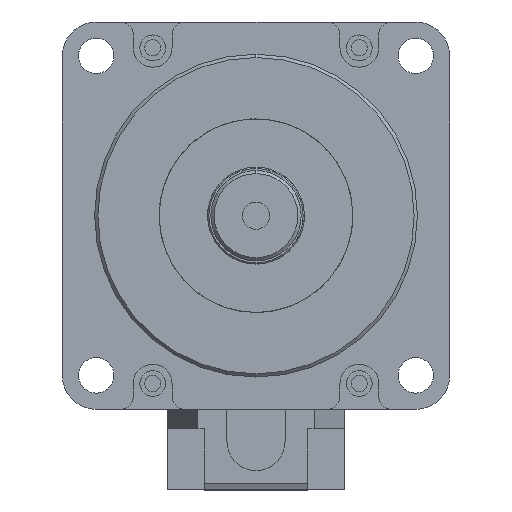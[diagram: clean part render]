
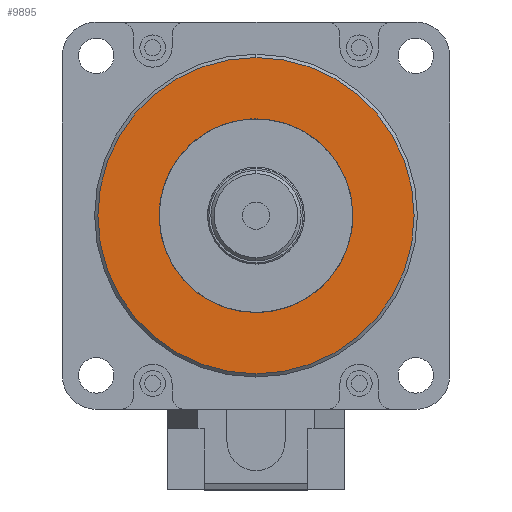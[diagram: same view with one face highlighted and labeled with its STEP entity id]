
A CAD part, left-side view. The second image highlights one B-rep face of the part: STEP entity #9895.
In plain terms, the highlighted planar face has unit normal (-1, 0, 0).
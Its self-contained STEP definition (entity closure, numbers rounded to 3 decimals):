
#81 = CARTESIAN_POINT ( 'NONE',  ( 27., 0., 0. ) ) ;
#137 = PLANE ( 'NONE',  #8260 ) ;
#448 = DIRECTION ( 'NONE',  ( -1., 0., 0. ) ) ;
#553 = CARTESIAN_POINT ( 'NONE',  ( 27., 0., 0. ) ) ;
#1053 = DIRECTION ( 'NONE',  ( 0., 0., -1. ) ) ;
#1231 = CIRCLE ( 'NONE', #9540, 24.5 ) ;
#2210 = ORIENTED_EDGE ( 'NONE', *, *, #7212, .F. ) ;
#2437 = AXIS2_PLACEMENT_3D ( 'NONE', #5832, #11736, #1053 ) ;
#2926 = DIRECTION ( 'NONE',  ( 0., 0., -1. ) ) ;
#3313 = DIRECTION ( 'NONE',  ( -1., 0., 0. ) ) ;
#3568 = CARTESIAN_POINT ( 'NONE',  ( 27., 0., 15. ) ) ;
#3750 = EDGE_CURVE ( 'NONE', #6935, #12199, #12006, .T. ) ;
#4677 = EDGE_CURVE ( 'NONE', #12768, #14597, #1231, .T. ) ;
#5383 = CARTESIAN_POINT ( 'NONE',  ( 27., 0., -15. ) ) ;
#5832 = CARTESIAN_POINT ( 'NONE',  ( 27., 0., 0. ) ) ;
#5975 = DIRECTION ( 'NONE',  ( 0., 0., -1. ) ) ;
#6081 = DIRECTION ( 'NONE',  ( -1., 0., 0. ) ) ;
#6107 = ORIENTED_EDGE ( 'NONE', *, *, #3750, .F. ) ;
#6181 = FACE_BOUND ( 'NONE', #6432, .T. ) ;
#6432 = EDGE_LOOP ( 'NONE', ( #6107, #2210 ) ) ;
#6935 = VERTEX_POINT ( 'NONE', #5383 ) ;
#7018 = ORIENTED_EDGE ( 'NONE', *, *, #10947, .T. ) ;
#7212 = EDGE_CURVE ( 'NONE', #12199, #6935, #7727, .T. ) ;
#7257 = DIRECTION ( 'NONE',  ( -1., 0., 0. ) ) ;
#7727 = CIRCLE ( 'NONE', #2437, 15. ) ;
#7851 = ORIENTED_EDGE ( 'NONE', *, *, #4677, .T. ) ;
#8260 = AXIS2_PLACEMENT_3D ( 'NONE', #8395, #7257, #10975 ) ;
#8395 = CARTESIAN_POINT ( 'NONE',  ( 27., 0., 0. ) ) ;
#9245 = CARTESIAN_POINT ( 'NONE',  ( 27., 0., 0. ) ) ;
#9305 = CIRCLE ( 'NONE', #14472, 24.5 ) ;
#9540 = AXIS2_PLACEMENT_3D ( 'NONE', #81, #6081, #5975 ) ;
#9561 = CARTESIAN_POINT ( 'NONE',  ( 27., 0., 24.5 ) ) ;
#9895 = ADVANCED_FACE ( 'NONE', ( #6181, #15266 ), #137, .T. ) ;
#10521 = CARTESIAN_POINT ( 'NONE',  ( 27., 0., -24.5 ) ) ;
#10947 = EDGE_CURVE ( 'NONE', #14597, #12768, #9305, .T. ) ;
#10975 = DIRECTION ( 'NONE',  ( 0., 0., -1. ) ) ;
#11736 = DIRECTION ( 'NONE',  ( -1., 0., 0. ) ) ;
#12006 = CIRCLE ( 'NONE', #13053, 15. ) ;
#12199 = VERTEX_POINT ( 'NONE', #3568 ) ;
#12768 = VERTEX_POINT ( 'NONE', #10521 ) ;
#13053 = AXIS2_PLACEMENT_3D ( 'NONE', #9245, #3313, #15164 ) ;
#14472 = AXIS2_PLACEMENT_3D ( 'NONE', #553, #448, #2926 ) ;
#14597 = VERTEX_POINT ( 'NONE', #9561 ) ;
#15164 = DIRECTION ( 'NONE',  ( 0., 0., -1. ) ) ;
#15188 = EDGE_LOOP ( 'NONE', ( #7018, #7851 ) ) ;
#15266 = FACE_OUTER_BOUND ( 'NONE', #15188, .T. ) ;
